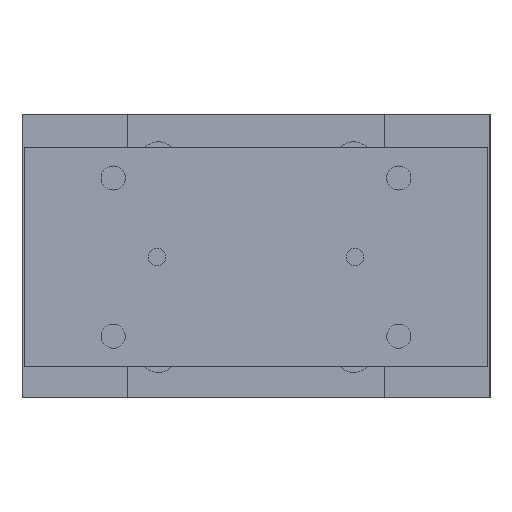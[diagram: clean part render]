
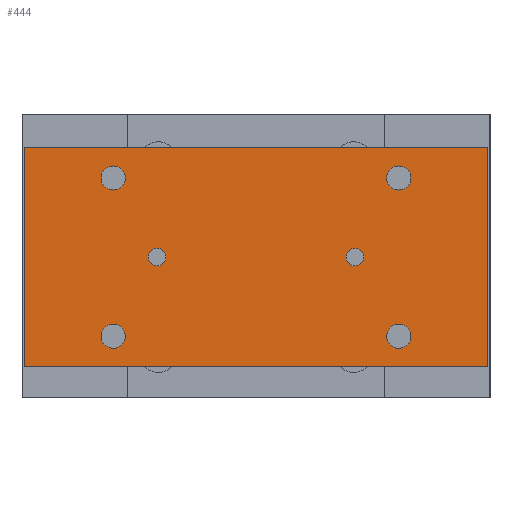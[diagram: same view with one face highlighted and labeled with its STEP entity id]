
A CAD part, left-side view. The second image highlights one B-rep face of the part: STEP entity #444.
In plain terms, the highlighted planar face has unit normal (-1, 0, 0).
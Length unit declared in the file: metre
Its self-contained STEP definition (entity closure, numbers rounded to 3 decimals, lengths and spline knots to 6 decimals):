
#444 = ADVANCED_FACE( '', ( #1061, #1062, #1063, #1064, #1065, #1066, #1067 ), #1068, .T. );
#1061 = FACE_BOUND( '', #1859, .T. );
#1062 = FACE_BOUND( '', #1860, .T. );
#1063 = FACE_BOUND( '', #1861, .T. );
#1064 = FACE_BOUND( '', #1862, .T. );
#1065 = FACE_BOUND( '', #1863, .T. );
#1066 = FACE_BOUND( '', #1864, .T. );
#1067 = FACE_OUTER_BOUND( '', #1865, .T. );
#1068 = PLANE( '', #1866 );
#1859 = EDGE_LOOP( '', ( #3016 ) );
#1860 = EDGE_LOOP( '', ( #3017 ) );
#1861 = EDGE_LOOP( '', ( #3018 ) );
#1862 = EDGE_LOOP( '', ( #3019 ) );
#1863 = EDGE_LOOP( '', ( #3020 ) );
#1864 = EDGE_LOOP( '', ( #3021 ) );
#1865 = EDGE_LOOP( '', ( #3022, #3023, #3024, #3025 ) );
#1866 = AXIS2_PLACEMENT_3D( '', #3026, #3027, #3028 );
#3016 = ORIENTED_EDGE( '', *, *, #3972, .F. );
#3017 = ORIENTED_EDGE( '', *, *, #4135, .F. );
#3018 = ORIENTED_EDGE( '', *, *, #4136, .F. );
#3019 = ORIENTED_EDGE( '', *, *, #4137, .F. );
#3020 = ORIENTED_EDGE( '', *, *, #4138, .F. );
#3021 = ORIENTED_EDGE( '', *, *, #4036, .T. );
#3022 = ORIENTED_EDGE( '', *, *, #4139, .T. );
#3023 = ORIENTED_EDGE( '', *, *, #3907, .T. );
#3024 = ORIENTED_EDGE( '', *, *, #4119, .T. );
#3025 = ORIENTED_EDGE( '', *, *, #4140, .T. );
#3026 = CARTESIAN_POINT( '', ( -0.1445, -0.1055, -0.015 ) );
#3027 = DIRECTION( '', ( -1., 0., 0. ) );
#3028 = DIRECTION( '', ( 0., -1., 0. ) );
#3907 = EDGE_CURVE( '', #4554, #4552, #4555, .T. );
#3972 = EDGE_CURVE( '', #4661, #4661, #4662, .T. );
#4036 = EDGE_CURVE( '', #4762, #4762, #4763, .T. );
#4119 = EDGE_CURVE( '', #4552, #4884, #4886, .T. );
#4135 = EDGE_CURVE( '', #4908, #4908, #4909, .T. );
#4136 = EDGE_CURVE( '', #4910, #4910, #4911, .T. );
#4137 = EDGE_CURVE( '', #4912, #4912, #4913, .T. );
#4138 = EDGE_CURVE( '', #4914, #4914, #4915, .T. );
#4139 = EDGE_CURVE( '', #4916, #4554, #4917, .T. );
#4140 = EDGE_CURVE( '', #4884, #4916, #4918, .T. );
#4552 = VERTEX_POINT( '', #5492 );
#4554 = VERTEX_POINT( '', #5495 );
#4555 = LINE( '', #5496, #5497 );
#4661 = VERTEX_POINT( '', #5638 );
#4662 = CIRCLE( '', #5639, 0.0055 );
#4762 = VERTEX_POINT( '', #5854 );
#4763 = CIRCLE( '', #5855, 0.004 );
#4884 = VERTEX_POINT( '', #6071 );
#4886 = LINE( '', #6074, #6075 );
#4908 = VERTEX_POINT( '', #6106 );
#4909 = CIRCLE( '', #6107, 0.0055 );
#4910 = VERTEX_POINT( '', #6108 );
#4911 = CIRCLE( '', #6109, 0.0055 );
#4912 = VERTEX_POINT( '', #6110 );
#4913 = CIRCLE( '', #6111, 0.0055 );
#4914 = VERTEX_POINT( '', #6112 );
#4915 = CIRCLE( '', #6113, 0.004 );
#4916 = VERTEX_POINT( '', #6114 );
#4917 = LINE( '', #6115, #6116 );
#4918 = LINE( '', #6117, #6118 );
#5492 = CARTESIAN_POINT( '', ( -0.1445, 0.1055, -0.015 ) );
#5495 = CARTESIAN_POINT( '', ( -0.1445, -0.1055, -0.015 ) );
#5496 = CARTESIAN_POINT( '', ( -0.1445, -0.1055, -0.015 ) );
#5497 = VECTOR( '', #6604, 1. );
#5638 = CARTESIAN_POINT( '', ( -0.1445, -0.0705, -0.101 ) );
#5639 = AXIS2_PLACEMENT_3D( '', #6682, #6683, #6684 );
#5854 = CARTESIAN_POINT( '', ( -0.1445, 0.045, -0.069 ) );
#5855 = AXIS2_PLACEMENT_3D( '', #6773, #6774, #6775 );
#6071 = CARTESIAN_POINT( '', ( -0.1445, 0.1055, -0.115 ) );
#6074 = CARTESIAN_POINT( '', ( -0.1445, 0.1055, -0.015 ) );
#6075 = VECTOR( '', #6866, 1. );
#6106 = CARTESIAN_POINT( '', ( -0.1445, 0.0595, -0.101 ) );
#6107 = AXIS2_PLACEMENT_3D( '', #6879, #6880, #6881 );
#6108 = CARTESIAN_POINT( '', ( -0.1445, -0.0705, -0.029 ) );
#6109 = AXIS2_PLACEMENT_3D( '', #6882, #6883, #6884 );
#6110 = CARTESIAN_POINT( '', ( -0.1445, 0.0595, -0.029 ) );
#6111 = AXIS2_PLACEMENT_3D( '', #6885, #6886, #6887 );
#6112 = CARTESIAN_POINT( '', ( -0.1445, -0.045, -0.069 ) );
#6113 = AXIS2_PLACEMENT_3D( '', #6888, #6889, #6890 );
#6114 = CARTESIAN_POINT( '', ( -0.1445, -0.1055, -0.115 ) );
#6115 = CARTESIAN_POINT( '', ( -0.1445, -0.1055, -0.115 ) );
#6116 = VECTOR( '', #6891, 1. );
#6117 = CARTESIAN_POINT( '', ( -0.1445, 0.1055, -0.115 ) );
#6118 = VECTOR( '', #6892, 1. );
#6604 = DIRECTION( '', ( 0., 1., 0. ) );
#6682 = CARTESIAN_POINT( '', ( -0.1445, -0.065, -0.101 ) );
#6683 = DIRECTION( '', ( -1., 0., 0. ) );
#6684 = DIRECTION( '', ( 0., -1., 0. ) );
#6773 = CARTESIAN_POINT( '', ( -0.1445, 0.045, -0.065 ) );
#6774 = DIRECTION( '', ( 1., 0., 0. ) );
#6775 = DIRECTION( '', ( 0., 0., -1. ) );
#6866 = DIRECTION( '', ( 0., 0., -1. ) );
#6879 = CARTESIAN_POINT( '', ( -0.1445, 0.065, -0.101 ) );
#6880 = DIRECTION( '', ( -1., 0., 0. ) );
#6881 = DIRECTION( '', ( 0., -1., 0. ) );
#6882 = CARTESIAN_POINT( '', ( -0.1445, -0.065, -0.029 ) );
#6883 = DIRECTION( '', ( -1., 0., 0. ) );
#6884 = DIRECTION( '', ( 0., -1., 0. ) );
#6885 = CARTESIAN_POINT( '', ( -0.1445, 0.065, -0.029 ) );
#6886 = DIRECTION( '', ( -1., 0., 0. ) );
#6887 = DIRECTION( '', ( 0., -1., 0. ) );
#6888 = CARTESIAN_POINT( '', ( -0.1445, -0.045, -0.065 ) );
#6889 = DIRECTION( '', ( -1., 0., 0. ) );
#6890 = DIRECTION( '', ( 0., 0., -1. ) );
#6891 = DIRECTION( '', ( 0., 0., 1. ) );
#6892 = DIRECTION( '', ( 0., -1., 0. ) );
